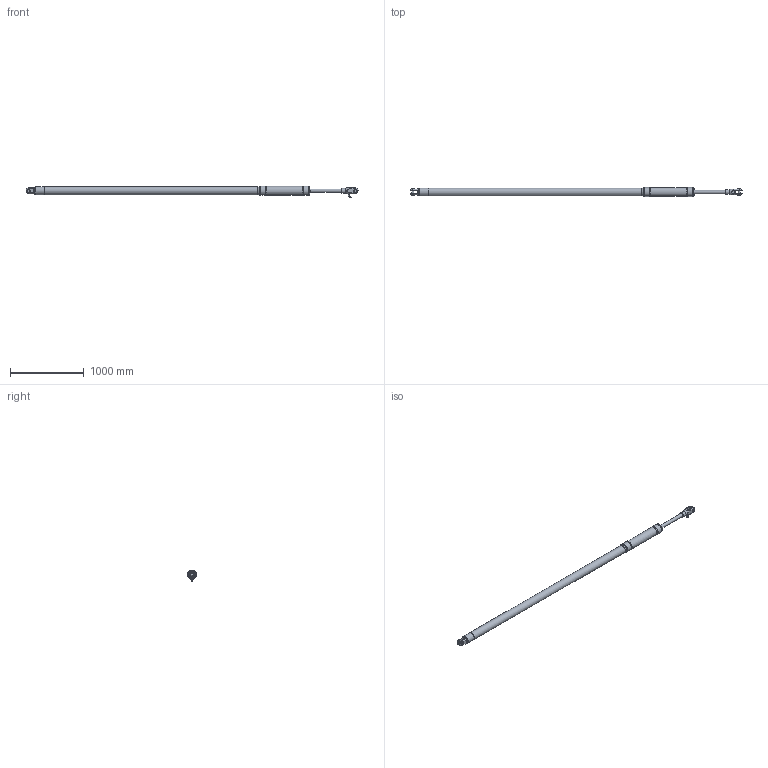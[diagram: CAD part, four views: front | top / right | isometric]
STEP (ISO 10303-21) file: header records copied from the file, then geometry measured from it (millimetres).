
FILE_DESCRIPTION(/* description */ (''),/* implementation_level */ '2;1');
FILE_NAME(/* name */ 'Q:\AA BRAND HYDRAULICS\HYDRAULICS FAMILY DIRECTORY\HYDRAULICS\CYLINDERS\VANGS\ALUMINIUM SINGLE ACTING - STAINLESS ON REQUEST (-0010 To -0150)\VSA-0076-S425-NP-71-L4000\VSA-0076-S425-NP-71-L4000 (Open).stp',/* time_stamp */ '2018-04-03T11:22:35+01:00',/* author */ ('Lorena'),/* organization */ (''),/* preprocessor_version */ 'ST-DEVELOPER v17',/* originating_system */ 'Autodesk Inventor 2018',/* authorisation */ '');
FILE_SCHEMA (('AUTOMOTIVE_DESIGN { 1 0 10303 214 3 1 1 }'));
Length unit declared in the file: millimetre
Products named in the file (1): VSA-0076-S425-NP-71-L4000 (Open)
Bounding box: 4498.5 x 123.6 x 157.1 mm (x, y, z)
Volume: 37820805 mm3; surface area: 1500084.9 mm2
Topology: 2 solids, 3 shells, 1690 faces, 4534 edges, 3004 vertices
Faces by surface type: plane 961, bspline 578, cylinder 89, cone 54, torus 4, sphere 4
Full cylindrical faces by diameter (mm): 5 x7, 7.5 x1, 8.1 x1, 10 x2, 11 x3, 12 x1, 14 x1, 14.35 x1, 14.662 x1, 15 x3, 15.662 x1, 16.662 x2, 18 x2, 20 x2, 21.4 x3, 27 x1, 28 x1, 31.75 x2, 39.688 x2, 45 x1, 47 x1, 65 x1, 108 x2, 119 x1, 120.6 x1, 123.6 x4
Entity records: 61447 total; most frequent: CARTESIAN_POINT 21231, ORIENTED_EDGE 9064, DIRECTION 5861, EDGE_CURVE 4532, VERTEX_POINT 3008, LINE 2899, VECTOR 2899, EDGE_LOOP 1860
